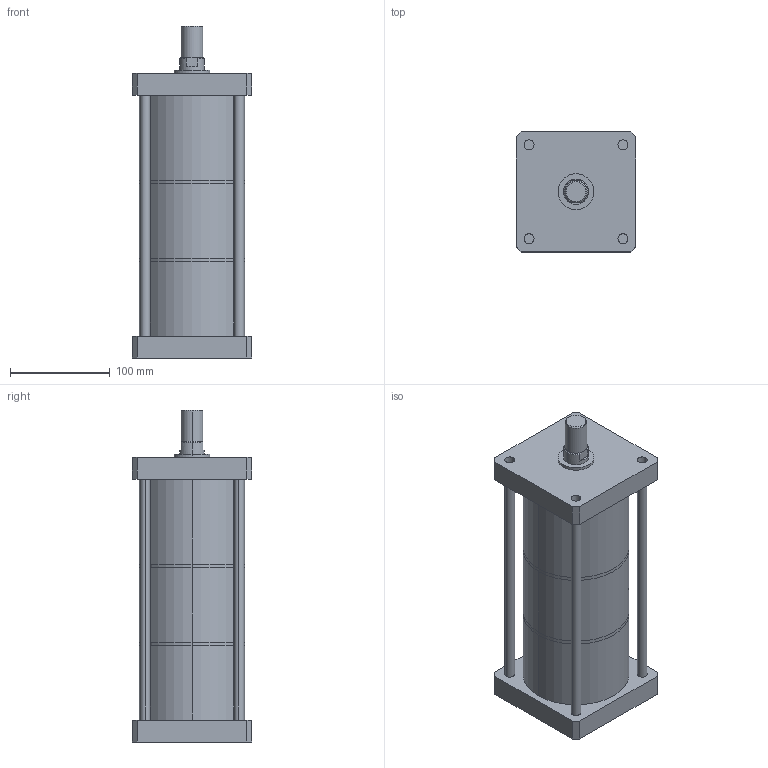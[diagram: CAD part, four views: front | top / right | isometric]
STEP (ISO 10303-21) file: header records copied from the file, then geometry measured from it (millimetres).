
FILE_DESCRIPTION (( 'STEP AP203' ), '1' );
FILE_NAME ('MHK-100-50-E-3.STEP', '2016-03-31T03:28:18', ( 'WIN' ), ( '' ), 'SwSTEP 2.0', 'SolidWorks 2014', '' );
FILE_SCHEMA (( 'CONFIG_CONTROL_DESIGN' ));
Length unit declared in the file: millimetre
Products named in the file (1): MHK-100-50-E-3
Bounding box: 120 x 120 x 332.5 mm (x, y, z)
Volume: 3491133.9 mm3; surface area: 300081.5 mm2
Topology: 6 solids, 6 shells, 151 faces, 342 edges, 223 vertices
Faces by surface type: plane 82, cylinder 56, cone 13
Entity records: 4318 total; most frequent: DIRECTION 773, CARTESIAN_POINT 725, ORIENTED_EDGE 676, EDGE_CURVE 338, AXIS2_PLACEMENT_3D 287, VERTEX_POINT 223, VECTOR 199, LINE 199
